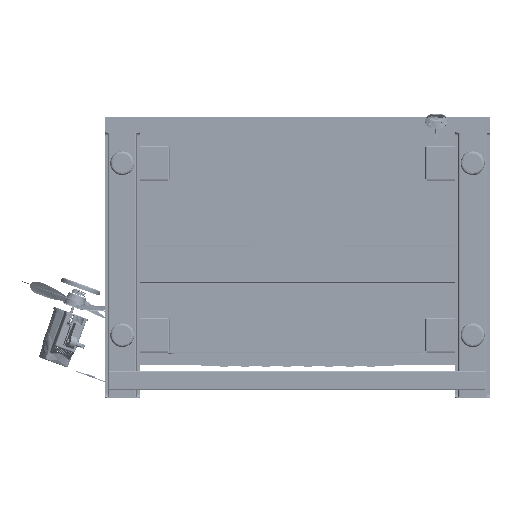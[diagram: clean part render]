
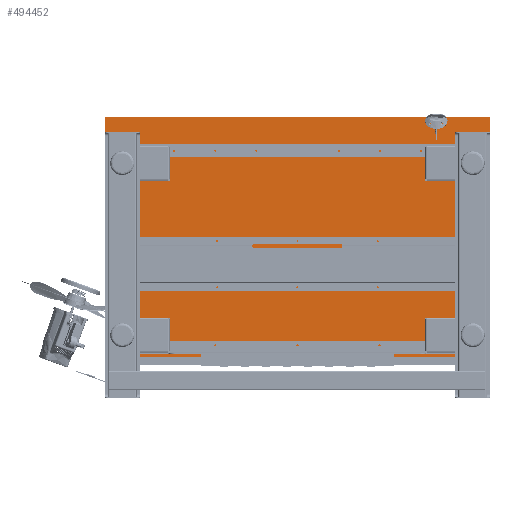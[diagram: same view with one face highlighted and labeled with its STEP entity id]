
A CAD part, front view. The second image highlights one B-rep face of the part: STEP entity #494452.
In plain terms, the highlighted planar face has unit normal (0, -1, 0).
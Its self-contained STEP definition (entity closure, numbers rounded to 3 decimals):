
#184 = DIRECTION ( 'NONE',  ( 1., 0., 0. ) ) ;
#11098 = CARTESIAN_POINT ( 'NONE',  ( -1161.76, 644.5, 691.85 ) ) ;
#11280 = DIRECTION ( 'NONE',  ( 0., 1., 0. ) ) ;
#19044 = ORIENTED_EDGE ( 'NONE', *, *, #212074, .T. ) ;
#22017 = FACE_OUTER_BOUND ( 'NONE', #488034, .T. ) ;
#24097 = ORIENTED_EDGE ( 'NONE', *, *, #249515, .T. ) ;
#42864 = CARTESIAN_POINT ( 'NONE',  ( 54.44, 644.5, 688.85 ) ) ;
#45005 = PLANE ( 'NONE',  #365272 ) ;
#61112 = LINE ( 'NONE', #134630, #296759 ) ;
#76504 = AXIS2_PLACEMENT_3D ( 'NONE', #240242, #238570, #353526 ) ;
#77560 = CARTESIAN_POINT ( 'NONE',  ( -1164.76, 644.5, 691.85 ) ) ;
#78292 = CARTESIAN_POINT ( 'NONE',  ( 51.44, 644.5, -67.15 ) ) ;
#83164 = VERTEX_POINT ( 'NONE', #258724 ) ;
#83295 = VECTOR ( 'NONE', #501209, 1000. ) ;
#85298 = DIRECTION ( 'NONE',  ( 0., 0., 1. ) ) ;
#87019 = CARTESIAN_POINT ( 'NONE',  ( 51.44, 644.5, 688.85 ) ) ;
#88693 = DIRECTION ( 'NONE',  ( 0., -1., 0. ) ) ;
#90190 = VERTEX_POINT ( 'NONE', #11098 ) ;
#90612 = EDGE_CURVE ( 'NONE', #92149, #193561, #360299, .T. ) ;
#92149 = VERTEX_POINT ( 'NONE', #95071 ) ;
#95071 = CARTESIAN_POINT ( 'NONE',  ( -1164.76, 644.5, -67.15 ) ) ;
#99323 = EDGE_CURVE ( 'NONE', #171132, #267014, #146974, .T. ) ;
#118726 = VERTEX_POINT ( 'NONE', #493021 ) ;
#121144 = DIRECTION ( 'NONE',  ( 0., 0., 1. ) ) ;
#122290 = DIRECTION ( 'NONE',  ( 0., -1., 0. ) ) ;
#123385 = VERTEX_POINT ( 'NONE', #202368 ) ;
#124880 = ORIENTED_EDGE ( 'NONE', *, *, #99323, .T. ) ;
#134630 = CARTESIAN_POINT ( 'NONE',  ( -1164.76, 644.5, -70.15 ) ) ;
#139429 = ORIENTED_EDGE ( 'NONE', *, *, #90612, .T. ) ;
#143988 = DIRECTION ( 'NONE',  ( 0., 0., -1. ) ) ;
#146974 = CIRCLE ( 'NONE', #401278, 3. ) ;
#148307 = LINE ( 'NONE', #77560, #480883 ) ;
#171132 = VERTEX_POINT ( 'NONE', #42864 ) ;
#193561 = VERTEX_POINT ( 'NONE', #376870 ) ;
#202368 = CARTESIAN_POINT ( 'NONE',  ( 51.44, 644.5, -70.15 ) ) ;
#212074 = EDGE_CURVE ( 'NONE', #123385, #118726, #256181, .T. ) ;
#224329 = LINE ( 'NONE', #493665, #315010 ) ;
#227152 = DIRECTION ( 'NONE',  ( 0., 0., 1. ) ) ;
#238570 = DIRECTION ( 'NONE',  ( 0., -1., 0. ) ) ;
#240242 = CARTESIAN_POINT ( 'NONE',  ( -1161.76, 644.5, -67.15 ) ) ;
#249515 = EDGE_CURVE ( 'NONE', #90190, #83164, #421614, .T. ) ;
#256181 = CIRCLE ( 'NONE', #367590, 3. ) ;
#258724 = CARTESIAN_POINT ( 'NONE',  ( -1164.76, 644.5, 688.85 ) ) ;
#259476 = ORIENTED_EDGE ( 'NONE', *, *, #402614, .F. ) ;
#267014 = VERTEX_POINT ( 'NONE', #355984 ) ;
#267685 = DIRECTION ( 'NONE',  ( 0., -1., 0. ) ) ;
#296759 = VECTOR ( 'NONE', #121144, 1000. ) ;
#301171 = LINE ( 'NONE', #410354, #83295 ) ;
#302208 = EDGE_CURVE ( 'NONE', #171132, #118726, #224329, .T. ) ;
#315010 = VECTOR ( 'NONE', #143988, 1000. ) ;
#318015 = EDGE_CURVE ( 'NONE', #90190, #267014, #148307, .T. ) ;
#338434 = ORIENTED_EDGE ( 'NONE', *, *, #318015, .F. ) ;
#353526 = DIRECTION ( 'NONE',  ( 0., 0., 1. ) ) ;
#355984 = CARTESIAN_POINT ( 'NONE',  ( 51.44, 644.5, 691.85 ) ) ;
#358940 = DIRECTION ( 'NONE',  ( 0., 0., 1. ) ) ;
#360299 = CIRCLE ( 'NONE', #76504, 3. ) ;
#365272 = AXIS2_PLACEMENT_3D ( 'NONE', #438328, #11280, #85298 ) ;
#367590 = AXIS2_PLACEMENT_3D ( 'NONE', #78292, #267685, #227152 ) ;
#376870 = CARTESIAN_POINT ( 'NONE',  ( -1161.76, 644.5, -70.15 ) ) ;
#396349 = DIRECTION ( 'NONE',  ( 0., 0., 1. ) ) ;
#401278 = AXIS2_PLACEMENT_3D ( 'NONE', #87019, #88693, #396349 ) ;
#402614 = EDGE_CURVE ( 'NONE', #92149, #83164, #61112, .T. ) ;
#410354 = CARTESIAN_POINT ( 'NONE',  ( -1164.76, 644.5, -70.15 ) ) ;
#421614 = CIRCLE ( 'NONE', #489893, 3. ) ;
#434230 = ORIENTED_EDGE ( 'NONE', *, *, #302208, .F. ) ;
#436165 = EDGE_CURVE ( 'NONE', #123385, #193561, #301171, .T. ) ;
#438328 = CARTESIAN_POINT ( 'NONE',  ( -555.16, 644.5, 310.85 ) ) ;
#451676 = ORIENTED_EDGE ( 'NONE', *, *, #436165, .F. ) ;
#475266 = CARTESIAN_POINT ( 'NONE',  ( -1161.76, 644.5, 688.85 ) ) ;
#480883 = VECTOR ( 'NONE', #184, 1000. ) ;
#488034 = EDGE_LOOP ( 'NONE', ( #434230, #124880, #338434, #24097, #259476, #139429, #451676, #19044 ) ) ;
#489893 = AXIS2_PLACEMENT_3D ( 'NONE', #475266, #122290, #358940 ) ;
#493021 = CARTESIAN_POINT ( 'NONE',  ( 54.44, 644.5, -67.15 ) ) ;
#493665 = CARTESIAN_POINT ( 'NONE',  ( 54.44, 644.5, -70.15 ) ) ;
#494452 = ADVANCED_FACE ( 'NONE', ( #22017 ), #45005, .F. ) ;
#501209 = DIRECTION ( 'NONE',  ( -1., 0., 0. ) ) ;
